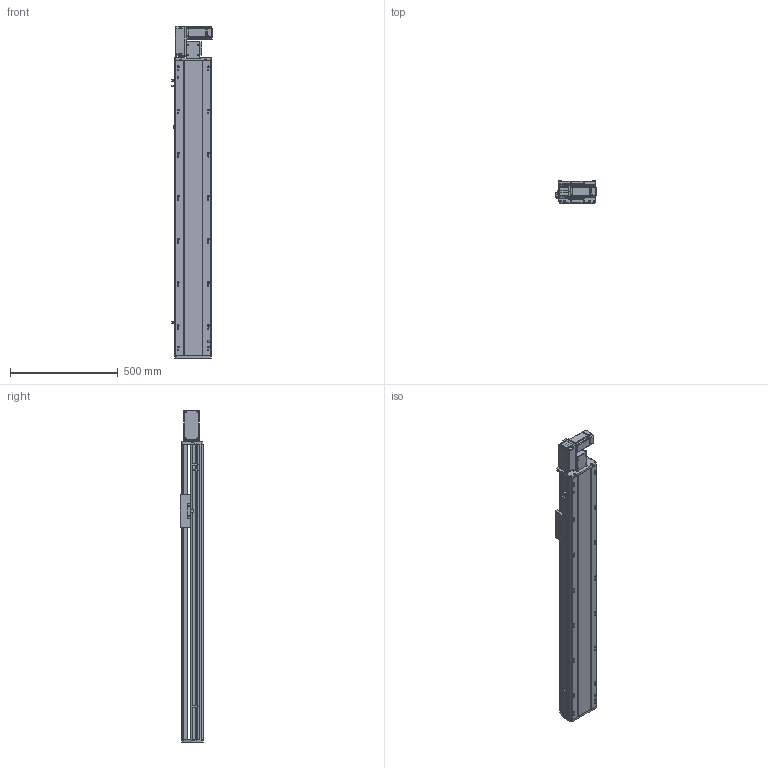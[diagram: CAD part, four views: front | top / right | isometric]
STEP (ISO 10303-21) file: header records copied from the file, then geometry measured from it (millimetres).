
FILE_DESCRIPTION (( 'STEP AP214' ), '1' );
FILE_NAME ('RTB17S-XX-1100-L-M40-C4.STEP', '2025-12-11T05:37:00', ( '' ), ( '' ), 'SwSTEP 2.0', 'SolidWorks 2018', '' );
FILE_SCHEMA (( 'AUTOMOTIVE_DESIGN' ));
Length unit declared in the file: millimetre
Products named in the file (14): 400W伺服电机^RTB17S-XX-XX-L-M40-C4（方程式）; RTB14-L-008-M20--电机板^RTB17S-L-皮带座装配-400W_RTB17S-XX-XX-L-M40-C4（方程式）; RTB17-R-011底座^RTB17S-XX-XX-L-M40-C4（方程式）; RTB17S-L-001侧面板^RTB17S-XX-XX-L-M40-C4（方程式）; RTB14-L-017P^RTB17S-L-皮带座装配-400W_RTB17S-XX-XX-L-M40-C4（方程式）; RMP17S-L-014-T20--皮带座^RTB17S-L-皮带座装配-400W_RTB17S-XX-XX-L-M40-C4（方程式）; OMRON EE-SX672 传感器^RTB17S-XX-XX-L-M40-C4（方程式）; RTB17S-XX-1100-L-M40-C4; RTB14-L-005P--轴承塑胶压盖^RTB17S-L-皮带座装配-400W_RTB17S-XX-XX-L-M40-C4（方程式）; RTH13-BL-012感应片外置^RTB17S-XX-XX-L-M40-C4（方程式）; RTB17S-L-004丝杆螺母连接座^RTB17S-XX-XX-L-M40-C4（方程式）; RTB14-L-018P^RTB17S-L-皮带座装配-400W_RTB17S-XX-XX-L-M40-C4（方程式）; RTB17S-L-皮带座装配-400W^RTB17S-XX-XX-L-M40-C4（方程式）; RTB17S-L-007上盖^RTB17S-XX-XX-L-M40-C4（方程式）
Assembly tree (16 placements, depth 3):
  RTB17S-XX-1100-L-M40-C4
    RTB17-R-011底座^RTB17S-XX-XX-L-M40-C4（方程式）
    RTB17S-L-007上盖^RTB17S-XX-XX-L-M40-C4（方程式）
    OMRON EE-SX672 传感器^RTB17S-XX-XX-L-M40-C4（方程式）  x3
    RTB17S-L-001侧面板^RTB17S-XX-XX-L-M40-C4（方程式）
    400W伺服电机^RTB17S-XX-XX-L-M40-C4（方程式）
    RTB17S-L-004丝杆螺母连接座^RTB17S-XX-XX-L-M40-C4（方程式）
    RTH13-BL-012感应片外置^RTB17S-XX-XX-L-M40-C4（方程式）
    RTB17S-L-皮带座装配-400W^RTB17S-XX-XX-L-M40-C4（方程式）
      RMP17S-L-014-T20--皮带座^RTB17S-L-皮带座装配-400W_RTB17S-XX-XX-L-M40-C4（方程式）
      RTB14-L-005P--轴承塑胶压盖^RTB17S-L-皮带座装配-400W_RTB17S-XX-XX-L-M40-C4（方程式）
      RTB14-L-008-M20--电机板^RTB17S-L-皮带座装配-400W_RTB17S-XX-XX-L-M40-C4（方程式）
      RTB14-L-017P^RTB17S-L-皮带座装配-400W_RTB17S-XX-XX-L-M40-C4（方程式）  x2
      RTB14-L-018P^RTB17S-L-皮带座装配-400W_RTB17S-XX-XX-L-M40-C4（方程式）
Bounding box: 186 x 108 x 1541 mm (x, y, z)
Volume: 13187235.8 mm3; surface area: 1587893.3 mm2
Topology: 15 solids, 15 shells, 2221 faces, 6141 edges, 4005 vertices
Faces by surface type: plane 1070, cylinder 703, bspline 301, cone 139, torus 8
Entity records: 63401 total; most frequent: CARTESIAN_POINT 17746, ORIENTED_EDGE 9126, DIRECTION 8486, EDGE_CURVE 4563, VERTEX_POINT 2993, AXIS2_PLACEMENT_3D 2923, LINE 2640, VECTOR 2640
